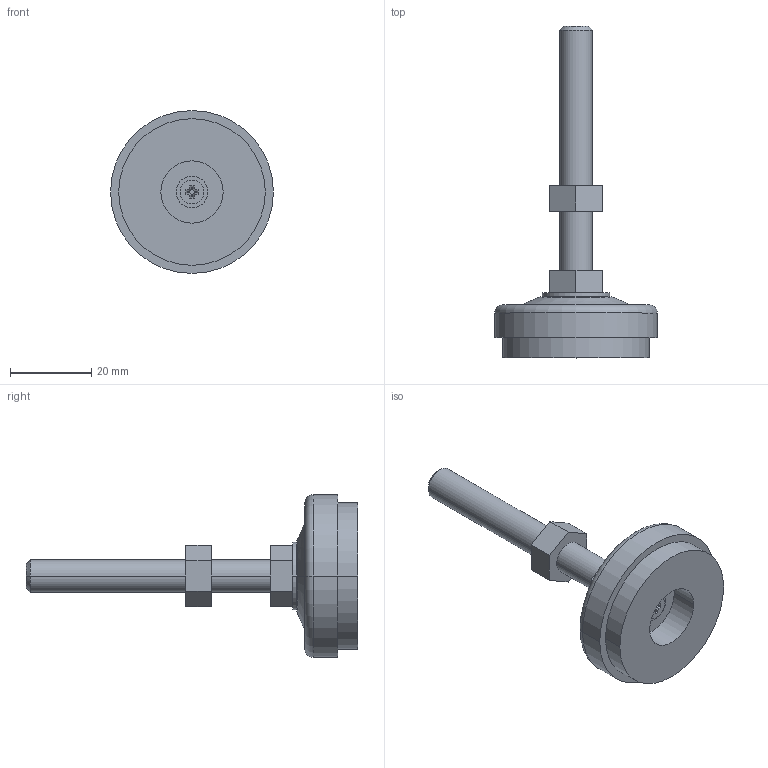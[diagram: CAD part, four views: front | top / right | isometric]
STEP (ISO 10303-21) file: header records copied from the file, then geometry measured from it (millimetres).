
FILE_DESCRIPTION (( 'STEP AP214' ), '1' );
FILE_NAME ('EA19-08060.STEP', '2016-01-24T05:28:21', ( '' ), ( '' ), 'SwSTEP 2.0', 'SolidWorks 2012', '' );
FILE_SCHEMA (( 'AUTOMOTIVE_DESIGN' ));
Length unit declared in the file: millimetre
Products named in the file (1): EA19-08060
Bounding box: 40 x 81.5 x 40 mm (x, y, z)
Volume: 19251.3 mm3; surface area: 6494.7 mm2
Topology: 1 solids, 1 shells, 65 faces, 150 edges, 98 vertices
Faces by surface type: plane 37, cylinder 16, cone 8, torus 4
Entity records: 1892 total; most frequent: CARTESIAN_POINT 338, DIRECTION 328, ORIENTED_EDGE 300, EDGE_CURVE 150, AXIS2_PLACEMENT_3D 120, VERTEX_POINT 98, LINE 88, VECTOR 88
